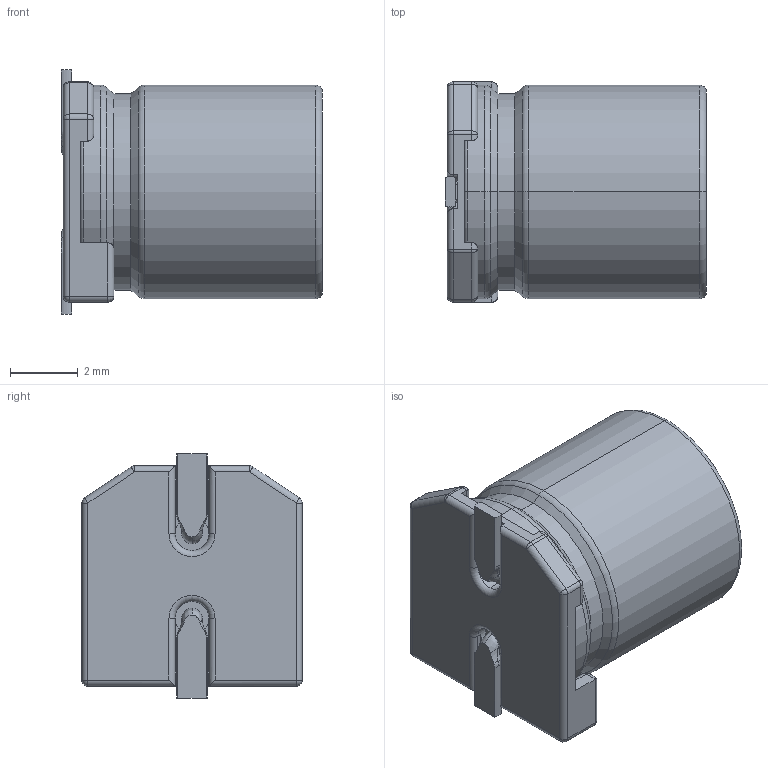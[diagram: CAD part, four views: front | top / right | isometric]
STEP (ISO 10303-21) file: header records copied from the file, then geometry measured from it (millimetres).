
FILE_DESCRIPTION((''),'2;1');
FILE_NAME('LIQUIDSMD63X77_ASM','2020-06-03T',('xy'),(''),'PRO/ENGINEER BY PARAMETRIC TECHNOLOGY CORPORATION, 2009380','PRO/ENGINEER BY PARAMETRIC TECHNOLOGY CORPORATION, 2009380','');
FILE_SCHEMA(('CONFIG_CONTROL_DESIGN'));
Length unit declared in the file: millimetre
Products named in the file (3): LIQUIDSMD63X77; ZB6-3A; LIQUIDSMD63X77_ASM
Assembly tree (2 placements, depth 2):
  LIQUIDSMD63X77_ASM
    LIQUIDSMD63X77
    ZB6-3A
Bounding box: 7.7 x 6.5 x 7.2 mm (x, y, z)
Volume: 240.8 mm3; surface area: 324.8 mm2
Topology: 2 solids, 2 shells, 302 faces, 758 edges, 468 vertices
Faces by surface type: plane 168, cylinder 69, bspline 24, sphere 20, torus 17, cone 4
Entity records: 9904 total; most frequent: CARTESIAN_POINT 2717, ORIENTED_EDGE 1508, DIRECTION 1432, EDGE_CURVE 754, VECTOR 518, LINE 518, VERTEX_POINT 468, AXIS2_PLACEMENT_3D 457
